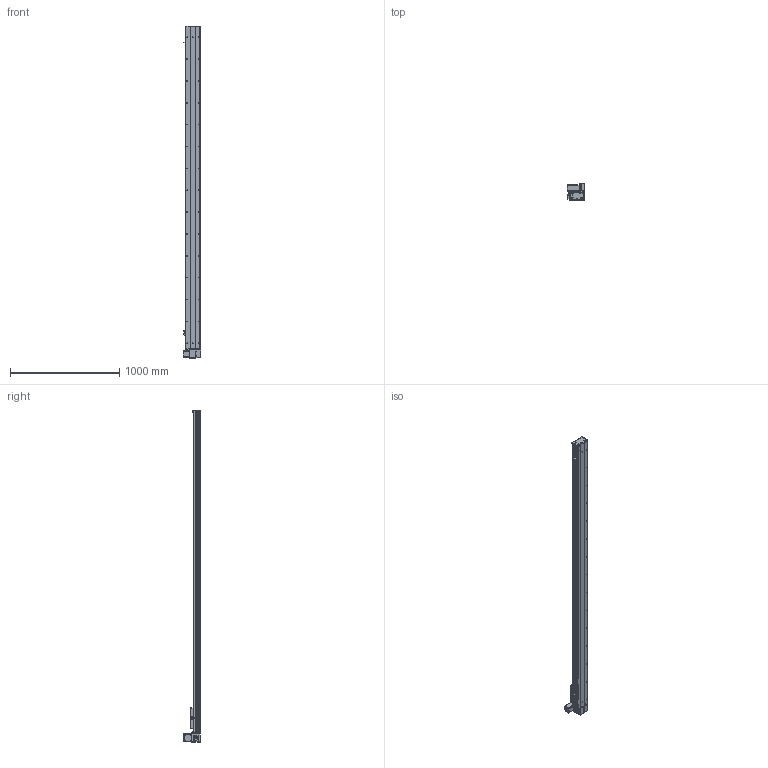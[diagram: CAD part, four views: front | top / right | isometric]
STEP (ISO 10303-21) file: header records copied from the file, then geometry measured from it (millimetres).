
FILE_DESCRIPTION (( 'STEP AP203' ), '1' );
FILE_NAME ('Y135CB-D90-S2650-UL-P400W.STEP', '2020-02-18T08:08:27', ( '微软用户' ), ( '微软中国' ), 'SwSTEP 2.0', 'SolidWorks 2017', '' );
FILE_SCHEMA (( 'CONFIG_CONTROL_DESIGN' ));
Length unit declared in the file: millimetre
Products named in the file (18): Y10B-耜蚾蟀諉啣----; san松下电机400不带刹车----; 00B-俋欶BM--; 5CB --掛极耜裔啣-; Y10B--々湍喘謫眊--666; C-詩湍揤踡え-陔; Y135CB-耜裔; Y135CB-D90-S2650-UL-P400W; 135CB--詩湍-CE; 135CB---遴掛极.-; Y100-135俋离換覜ん--; 35CB---喘謫眊楊擘啣; Y135C-陔俋离換覜結え-; 0B-埴倛裔啣; 5C--俋欶; 0B-源倛裔啣; C-雄赽釱--; 0B-萇儂楊擘啣
Assembly tree (21 placements, depth 2):
  Y135CB-D90-S2650-UL-P400W
    Y135CB-耜裔
    135CB---遴掛极.-
    35CB---喘謫眊楊擘啣
    0B-埴倛裔啣
    0B-源倛裔啣
    0B-萇儂楊擘啣
    san松下电机400不带刹车----
    5CB --掛极耜裔啣-  x2
    C-詩湍揤踡え-陔  x2
    135CB--詩湍-CE
    Y100-135俋离換覜ん--  x3
    Y135C-陔俋离換覜結え-
    5C--俋欶
    C-雄赽釱--
    Y10B-耜蚾蟀諉啣----
    00B-俋欶BM--
    Y10B--々湍喘謫眊--666
Bounding box: 157 x 158.7 x 3038 mm (x, y, z)
Volume: 8671413.2 mm3; surface area: 3436355.8 mm2
Topology: 21 solids, 21 shells, 977 faces, 2671 edges, 1770 vertices
Faces by surface type: cylinder 505, plane 456, cone 16
Entity records: 30965 total; most frequent: CARTESIAN_POINT 5164, DIRECTION 5147, ORIENTED_EDGE 4818, EDGE_CURVE 2409, AXIS2_PLACEMENT_3D 1889, VERTEX_POINT 1598, LINE 1369, VECTOR 1369
